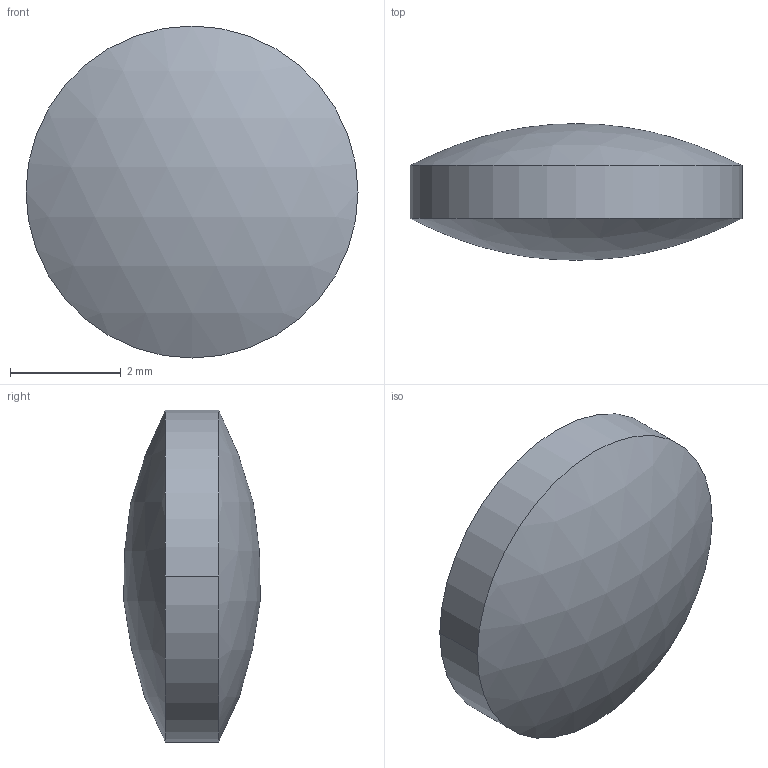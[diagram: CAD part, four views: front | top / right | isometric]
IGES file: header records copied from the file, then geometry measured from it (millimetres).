
Global section: file name: No Iges File Name specified; native system: AutoDesk Inventor R12.0; preprocessor: AutoDesk Inventor Iges Exporter R12.0; author: No Author specified; organization: No Organization specified; date: 20090513.091721; units: millimetre
Bounding box: 6 x 2.47 x 6 mm (x, y, z)
Volume: 49.4 mm3; surface area: 78.4 mm2
Topology: 1 solids, 1 shells, 4 faces, 6 edges, 4 vertices
Faces by surface type: cylinder 2, sphere 2
